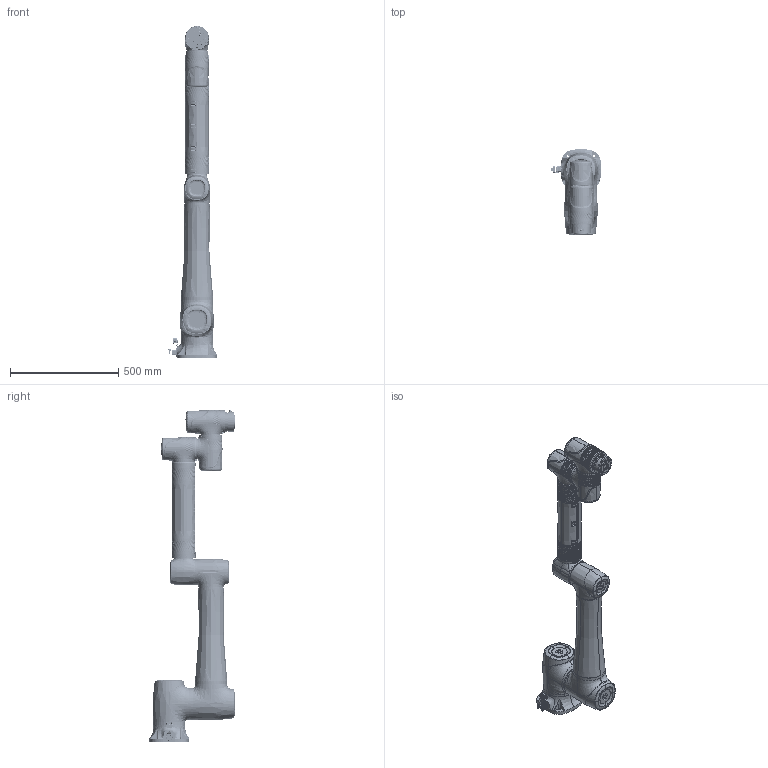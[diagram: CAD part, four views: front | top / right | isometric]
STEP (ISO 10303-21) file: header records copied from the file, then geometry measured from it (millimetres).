
FILE_DESCRIPTION((''),'2;1');
FILE_NAME('CR10-202108120001_ASM_1_ASM','2022-11-23T10:59:27',('Administrator'),(''),'CREO PARAMETRIC BY PTC INC, 2017260','CREO PARAMETRIC BY PTC INC, 2017260','');
FILE_SCHEMA(('CONFIG_CONTROL_DESIGN'));
Length unit declared in the file: millimetre
Products named in the file (44): J1-CR10_1_1_1; NONE-34145_1_1_1; NONE-36023_1_1_1; NONE-37397_1_1_1; NONE-81708_1_1_1; NONE-82398_1_1_1; NONE-82664_1_1_1; NONE-83120_1_1_1; NONE-83819_1_1_1; NONE-84057_1_1_1; NONE-127921_1_1_1; NONE-128385_1_1_1; NONE-128841_1_1_1; NONE-129290_1_1_1; NONE-129511_1_1_1; NONE-130207_1_1_1; NONE-130442_1_1_1; NONE-130686_1_1_1; NONE-131129_1_1_1; NONE-131594_1_1_1; NONE-131812_1_1_1; _CR00_ASM_1_ASM_1_ASM_1_ASM; J3-CR10_1_1_1; J5-CR10_1_1_1; J4-CR10_1_1_1; NONE-84978_1_1_1; NONE-85449_1_1_1; J2-CR10_ASM_1_ASM_1_ASM_1_ASM; NONE-81267_1_1_1; NONE-129055_3_1_1; NONE-35784_1_1_1; J6-CR10_ASM_1_ASM_1_ASM_1_ASM; CR10-0001_ASM_1_ASM_1_ASM_1_ASM; CR10__ASM_1_ASM_1_ASM_1_ASM; CR10_-20210812_ASM_1_ASM_1_ASM; J4-CR1000_2; J6-CR1000_2; 2207011900; 5-BUTTON_; NUTS-FOR-BUTTON_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
Assembly tree (58 placements, depth 6):
  CR10-202108120001_ASM_1_ASM
    CR10_-20210812_ASM_1_ASM_1_ASM
      CR10__ASM_1_ASM_1_ASM_1_ASM
        CR10-0001_ASM_1_ASM_1_ASM_1_ASM
          J1-CR10_1_1_1
          _CR00_ASM_1_ASM_1_ASM_1_ASM
            NONE-34145_1_1_1
            NONE-36023_1_1_1
            NONE-37397_1_1_1
            NONE-81708_1_1_1
            NONE-82398_1_1_1
            NONE-82664_1_1_1
            NONE-83120_1_1_1
            NONE-83819_1_1_1
            NONE-84057_1_1_1
            NONE-127921_1_1_1
            NONE-128385_1_1_1
            NONE-128841_1_1_1
            NONE-129290_1_1_1
            NONE-129511_1_1_1
            NONE-130207_1_1_1
            NONE-130442_1_1_1
            NONE-130686_1_1_1
            NONE-131129_1_1_1
            NONE-131594_1_1_1
            NONE-131812_1_1_1
          J3-CR10_1_1_1
          J5-CR10_1_1_1
          J4-CR10_1_1_1
          J2-CR10_ASM_1_ASM_1_ASM_1_ASM
            NONE-84978_1_1_1
            NONE-85449_1_1_1
          J6-CR10_ASM_1_ASM_1_ASM_1_ASM
            NONE-81267_1_1_1
            NONE-129055_3_1_1
            NONE-35784_1_1_1
    J4-CR1000_2  x2
    J6-CR1000_2
    2207011900
    2109020200_ASM
      5-BUTTON_
      NUTS-FOR-BUTTON_
    M3X10_GB70  x10
    M2X8_GB70  x6
Bounding box: 231.79 x 395.4 x 1531.03 mm (x, y, z)
Volume: 26257189.5 mm3; surface area: 1863847.7 mm2
Topology: 50 solids, 100 shells, 7816 faces, 19884 edges, 12600 vertices
Faces by surface type: bspline 3074, plane 2999, cylinder 1085, cone 466, extrusion 86, torus 83, sphere 15, revolution 8
Entity records: 355948 total; most frequent: CARTESIAN_POINT 219710, ORIENTED_EDGE 31809, DIRECTION 21075, EDGE_CURVE 16339, VERTEX_POINT 10509, AXIS2_PLACEMENT_3D 7108, VECTOR 6851, EDGE_LOOP 6808
